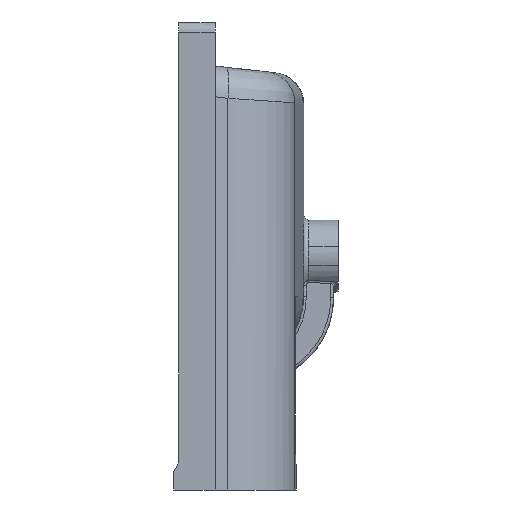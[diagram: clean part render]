
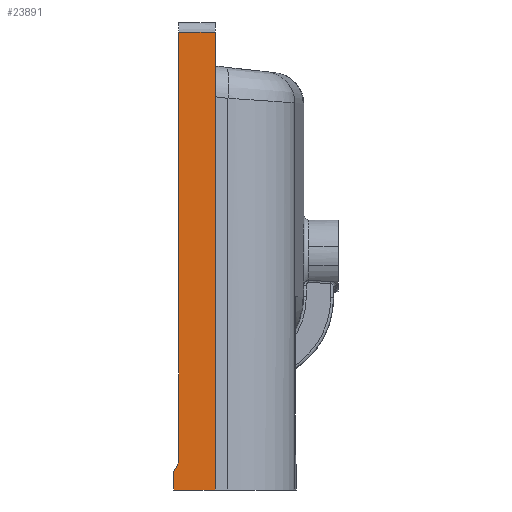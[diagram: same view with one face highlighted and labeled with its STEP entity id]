
A CAD part, left-side view. The second image highlights one B-rep face of the part: STEP entity #23891.
In plain terms, the highlighted planar face has unit normal (-1, -0.025, 0).
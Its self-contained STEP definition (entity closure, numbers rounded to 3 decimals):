
#74 = CARTESIAN_POINT ( 'NONE',  ( 76.783, -31.699, -129.959 ) ) ;
#449 = DIRECTION ( 'NONE',  ( 0., 0., 1. ) ) ;
#1019 = DIRECTION ( 'NONE',  ( -0.025, 1., 0. ) ) ;
#2296 = LINE ( 'NONE', #15608, #21106 ) ;
#2580 = EDGE_CURVE ( 'NONE', #9598, #18201, #4727, .T. ) ;
#2758 = DIRECTION ( 'NONE',  ( 0., 0., 1. ) ) ;
#3083 = ORIENTED_EDGE ( 'NONE', *, *, #2580, .F. ) ;
#3100 = CARTESIAN_POINT ( 'NONE',  ( 75.805, 7.406, -109.761 ) ) ;
#3954 = VERTEX_POINT ( 'NONE', #19787 ) ;
#4335 = CARTESIAN_POINT ( 'NONE',  ( 76.783, -31.724, -129.959 ) ) ;
#4727 = LINE ( 'NONE', #25181, #21105 ) ;
#5180 = VECTOR ( 'NONE', #2758, 1000. ) ;
#5324 = CARTESIAN_POINT ( 'NONE',  ( 75.783, 8.276, -114.528 ) ) ;
#6057 = FACE_OUTER_BOUND ( 'NONE', #8036, .T. ) ;
#6417 = CARTESIAN_POINT ( 'NONE',  ( 75.908, 3.276, -103.762 ) ) ;
#7804 = CARTESIAN_POINT ( 'NONE',  ( 75.783, 8.276, -129.959 ) ) ;
#7847 = CARTESIAN_POINT ( 'NONE',  ( 75.908, 3.276, 310.041 ) ) ;
#8036 = EDGE_LOOP ( 'NONE', ( #19390, #19872, #28519, #3083, #27814, #11517, #12265 ) ) ;
#8639 = CARTESIAN_POINT ( 'NONE',  ( 75.908, 3.276, -101.299 ) ) ;
#9081 = DIRECTION ( 'NONE',  ( -0.025, 1., 0. ) ) ;
#9221 = CARTESIAN_POINT ( 'NONE',  ( 75.908, 3.276, -101.299 ) ) ;
#9598 = VERTEX_POINT ( 'NONE', #9221 ) ;
#10711 = AXIS2_PLACEMENT_3D ( 'NONE', #15066, #26488, #1019 ) ;
#10774 = EDGE_CURVE ( 'NONE', #18201, #25505, #11531, .T. ) ;
#11235 = DIRECTION ( 'NONE',  ( 0.025, -1., 0. ) ) ;
#11517 = ORIENTED_EDGE ( 'NONE', *, *, #16353, .F. ) ;
#11531 = LINE ( 'NONE', #22490, #15987 ) ;
#12265 = ORIENTED_EDGE ( 'NONE', *, *, #18592, .F. ) ;
#12889 =( BOUNDED_CURVE ( )  B_SPLINE_CURVE ( 3, ( #29220, #16022, #6417, #8639 ),
 .UNSPECIFIED., .F., .T. ) 
 B_SPLINE_CURVE_WITH_KNOTS ( ( 4, 4 ),
 ( 5.56, 6.283 ),
 .UNSPECIFIED. ) 
 CURVE ( )  GEOMETRIC_REPRESENTATION_ITEM ( )  RATIONAL_B_SPLINE_CURVE ( ( 1., 0.957, 0.957, 1. ) ) 
 REPRESENTATION_ITEM ( '' )  );
#13391 = VERTEX_POINT ( 'NONE', #14718 ) ;
#14379 = EDGE_CURVE ( 'NONE', #25505, #26118, #2296, .T. ) ;
#14718 = CARTESIAN_POINT ( 'NONE',  ( 75.846, 5.776, -107.914 ) ) ;
#15066 = CARTESIAN_POINT ( 'NONE',  ( 75.783, 8.276, -129.959 ) ) ;
#15554 = VECTOR ( 'NONE', #9081, 1000. ) ;
#15608 = CARTESIAN_POINT ( 'NONE',  ( 76.783, -31.724, -129.959 ) ) ;
#15987 = VECTOR ( 'NONE', #11235, 1000. ) ;
#16022 = CARTESIAN_POINT ( 'NONE',  ( 75.887, 4.147, -106.066 ) ) ;
#16275 = CARTESIAN_POINT ( 'NONE',  ( 76.783, -31.724, 310.041 ) ) ;
#16353 = EDGE_CURVE ( 'NONE', #3954, #13391, #17015, .T. ) ;
#16944 = LINE ( 'NONE', #23044, #5180 ) ;
#17015 =( BOUNDED_CURVE ( )  B_SPLINE_CURVE ( 3, ( #5324, #23385, #3100, #21155 ),
 .UNSPECIFIED., .F., .T. ) 
 B_SPLINE_CURVE_WITH_KNOTS ( ( 4, 4 ),
 ( 3.142, 3.864 ),
 .UNSPECIFIED. ) 
 CURVE ( )  GEOMETRIC_REPRESENTATION_ITEM ( )  RATIONAL_B_SPLINE_CURVE ( ( 1., 0.957, 0.957, 1. ) ) 
 REPRESENTATION_ITEM ( '' )  );
#17065 = EDGE_CURVE ( 'NONE', #13391, #9598, #12889, .T. ) ;
#17267 = VERTEX_POINT ( 'NONE', #7804 ) ;
#17820 = LINE ( 'NONE', #74, #15554 ) ;
#17984 = EDGE_CURVE ( 'NONE', #26118, #17267, #17820, .T. ) ;
#18201 = VERTEX_POINT ( 'NONE', #7847 ) ;
#18592 = EDGE_CURVE ( 'NONE', #17267, #3954, #16944, .T. ) ;
#19390 = ORIENTED_EDGE ( 'NONE', *, *, #17984, .F. ) ;
#19774 = DIRECTION ( 'NONE',  ( 0., 0., -1. ) ) ;
#19787 = CARTESIAN_POINT ( 'NONE',  ( 75.783, 8.276, -114.528 ) ) ;
#19872 = ORIENTED_EDGE ( 'NONE', *, *, #14379, .F. ) ;
#21105 = VECTOR ( 'NONE', #449, 1000. ) ;
#21106 = VECTOR ( 'NONE', #19774, 1000. ) ;
#21155 = CARTESIAN_POINT ( 'NONE',  ( 75.846, 5.776, -107.914 ) ) ;
#21297 = PLANE ( 'NONE',  #10711 ) ;
#22490 = CARTESIAN_POINT ( 'NONE',  ( 75.783, 8.276, 310.041 ) ) ;
#23044 = CARTESIAN_POINT ( 'NONE',  ( 75.783, 8.276, -129.959 ) ) ;
#23385 = CARTESIAN_POINT ( 'NONE',  ( 75.783, 8.276, -112.065 ) ) ;
#23891 = ADVANCED_FACE ( 'NONE', ( #6057 ), #21297, .T. ) ;
#25181 = CARTESIAN_POINT ( 'NONE',  ( 75.908, 3.276, -4.959 ) ) ;
#25505 = VERTEX_POINT ( 'NONE', #16275 ) ;
#26118 = VERTEX_POINT ( 'NONE', #4335 ) ;
#26488 = DIRECTION ( 'NONE',  ( -1., -0.025, 0. ) ) ;
#27814 = ORIENTED_EDGE ( 'NONE', *, *, #17065, .F. ) ;
#28519 = ORIENTED_EDGE ( 'NONE', *, *, #10774, .F. ) ;
#29220 = CARTESIAN_POINT ( 'NONE',  ( 75.846, 5.776, -107.914 ) ) ;
